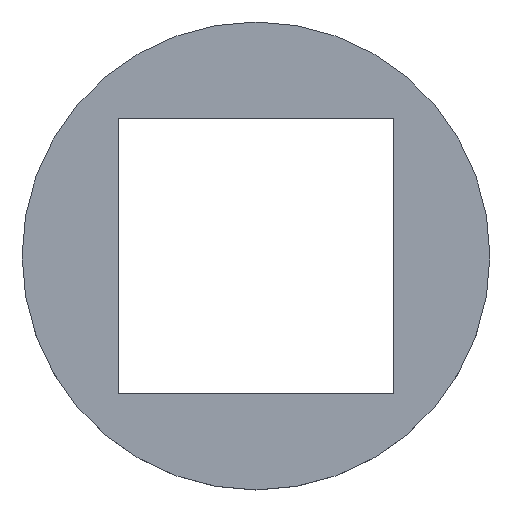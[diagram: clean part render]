
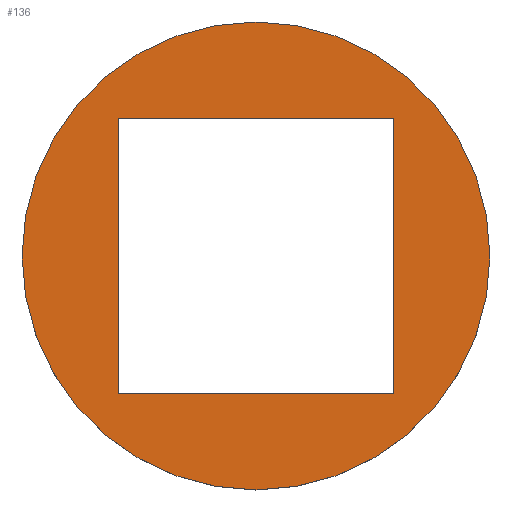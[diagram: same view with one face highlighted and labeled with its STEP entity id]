
A CAD part, top view. The second image highlights one B-rep face of the part: STEP entity #136.
In plain terms, the highlighted planar face has unit normal (0, 0, 1).
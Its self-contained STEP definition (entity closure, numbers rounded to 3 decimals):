
#23=FACE_BOUND('',#41,.T.);
#25=CIRCLE('',#159,8.5);
#33=FACE_OUTER_BOUND('',#40,.T.);
#40=EDGE_LOOP('',(#115));
#41=EDGE_LOOP('',(#116,#117,#118,#119));
#46=LINE('',#216,#59);
#49=LINE('',#222,#62);
#52=LINE('',#228,#65);
#55=LINE('',#232,#68);
#59=VECTOR('',#175,10.);
#62=VECTOR('',#180,10.);
#65=VECTOR('',#185,10.);
#68=VECTOR('',#190,10.);
#72=VERTEX_POINT('',#213);
#73=VERTEX_POINT('',#215);
#75=VERTEX_POINT('',#221);
#77=VERTEX_POINT('',#227);
#78=VERTEX_POINT('',#234);
#82=EDGE_CURVE('',#73,#72,#46,.T.);
#85=EDGE_CURVE('',#75,#73,#49,.T.);
#88=EDGE_CURVE('',#77,#75,#52,.T.);
#91=EDGE_CURVE('',#72,#77,#55,.T.);
#92=EDGE_CURVE('',#78,#78,#25,.T.);
#115=ORIENTED_EDGE('',*,*,#92,.T.);
#116=ORIENTED_EDGE('',*,*,#91,.T.);
#117=ORIENTED_EDGE('',*,*,#88,.T.);
#118=ORIENTED_EDGE('',*,*,#85,.T.);
#119=ORIENTED_EDGE('',*,*,#82,.T.);
#129=PLANE('',#161);
#136=ADVANCED_FACE('',(#33,#23),#129,.T.);
#159=AXIS2_PLACEMENT_3D('',#235,#193,#194);
#161=AXIS2_PLACEMENT_3D('',#239,#198,#199);
#175=DIRECTION('',(1.,0.,0.));
#180=DIRECTION('',(0.,1.,0.));
#185=DIRECTION('',(-1.,0.,0.));
#190=DIRECTION('',(0.,-1.,0.));
#193=DIRECTION('center_axis',(0.,0.,
1.));
#194=DIRECTION('ref_axis',(1.,0.,0.));
#198=DIRECTION('center_axis',(0.,0.,
1.));
#199=DIRECTION('ref_axis',(1.,0.,0.));
#213=CARTESIAN_POINT('',(5.,5.,3.72));
#215=CARTESIAN_POINT('',(-5.,5.,3.72));
#216=CARTESIAN_POINT('',(5.,5.,3.72));
#221=CARTESIAN_POINT('',(-5.,-5.,3.72));
#222=CARTESIAN_POINT('',(-5.,5.,3.72));
#227=CARTESIAN_POINT('',(5.,-5.,3.72));
#228=CARTESIAN_POINT('',(-5.,-5.,3.72));
#232=CARTESIAN_POINT('',(5.,-5.,3.72));
#234=CARTESIAN_POINT('',(-8.5,0.,3.72));
#235=CARTESIAN_POINT('Origin',(0.,0.,
3.72));
#239=CARTESIAN_POINT('Origin',(0.,0.,
3.72));
